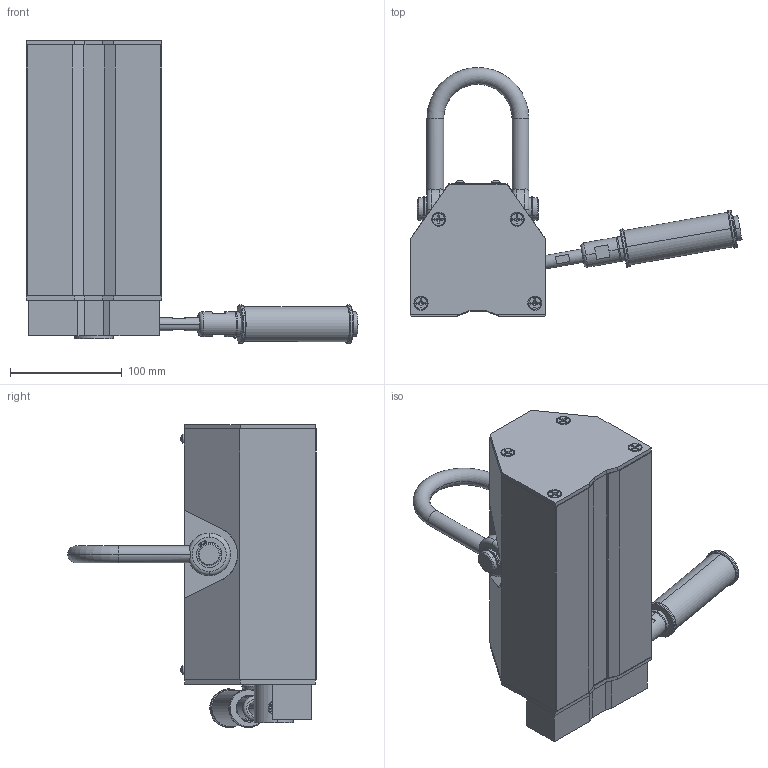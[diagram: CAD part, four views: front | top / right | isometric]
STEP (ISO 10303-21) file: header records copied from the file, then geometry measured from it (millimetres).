
FILE_DESCRIPTION (( 'STEP AP203' ), '1' );
FILE_NAME ('PNL1600.STEP', '2018-08-02T19:48:17', ( '' ), ( '' ), 'SwSTEP 2.0', 'SolidWorks 2015', '' );
FILE_SCHEMA (( 'CONFIG_CONTROL_DESIGN' ));
Products named in the file (1): PNL1600
Bounding box: 297.06 x 222.6 x 271.08 mm (x, y, z)
Volume: 2420032.8 mm3; surface area: 385741.9 mm2
Topology: 80 solids, 80 shells, 2257 faces, 5584 edges, 3515 vertices
Faces by surface type: plane 821, cone 650, cylinder 433, bspline 227, sphere 94, torus 32
Entity records: 87695 total; most frequent: CARTESIAN_POINT 37257, ORIENTED_EDGE 10734, DIRECTION 9755, EDGE_CURVE 5367, AXIS2_PLACEMENT_3D 3497, VERTEX_POINT 3392, LINE 2761, VECTOR 2761
